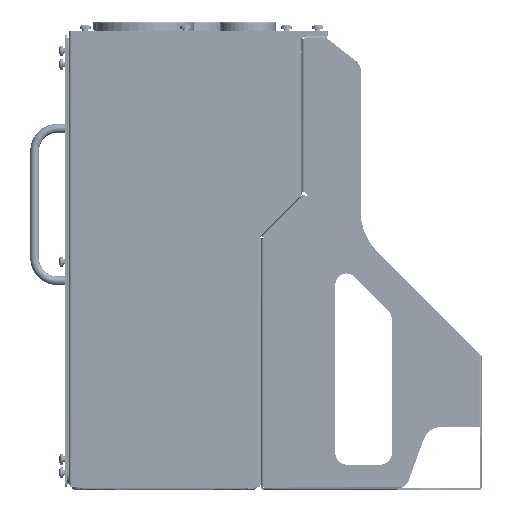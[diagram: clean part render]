
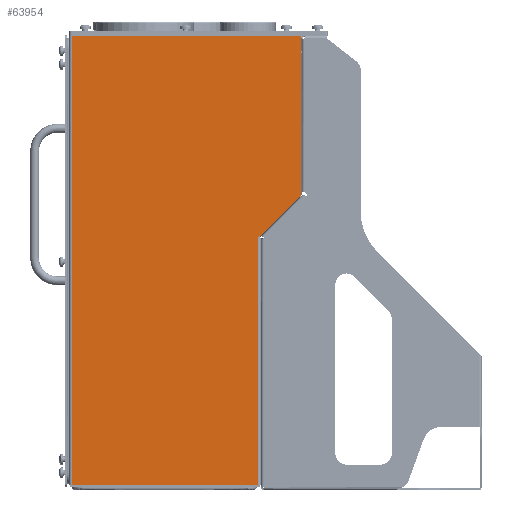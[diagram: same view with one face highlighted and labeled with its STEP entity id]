
A CAD part, left-side view. The second image highlights one B-rep face of the part: STEP entity #63954.
In plain terms, the highlighted planar face has unit normal (-1, 0, 0).
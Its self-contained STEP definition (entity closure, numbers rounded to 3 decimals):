
#3491 = VERTEX_POINT ( 'NONE', #169012 ) ;
#3555 = EDGE_CURVE ( 'NONE', #156582, #37085, #176389, .T. ) ;
#5108 = EDGE_CURVE ( 'NONE', #13128, #150295, #31814, .T. ) ;
#6841 = DIRECTION ( 'NONE',  ( -1., 0., 0. ) ) ;
#7852 = ORIENTED_EDGE ( 'NONE', *, *, #89794, .F. ) ;
#10539 = LINE ( 'NONE', #138308, #82850 ) ;
#12354 = DIRECTION ( 'NONE',  ( 0., 0., 1. ) ) ;
#13128 = VERTEX_POINT ( 'NONE', #181364 ) ;
#15090 = EDGE_CURVE ( 'NONE', #147971, #42302, #150430, .T. ) ;
#18780 = CARTESIAN_POINT ( 'NONE',  ( -222., -0.25, 682. ) ) ;
#22976 = AXIS2_PLACEMENT_3D ( 'NONE', #52151, #6841, #119790 ) ;
#25192 = DIRECTION ( 'NONE',  ( 0., 1., 0. ) ) ;
#25206 = ORIENTED_EDGE ( 'NONE', *, *, #119433, .F. ) ;
#25816 = EDGE_CURVE ( 'NONE', #76578, #100167, #133660, .T. ) ;
#27008 = CARTESIAN_POINT ( 'NONE',  ( -222., -36.5, 858. ) ) ;
#27017 = CARTESIAN_POINT ( 'NONE',  ( -222., -1., 682. ) ) ;
#30143 = CARTESIAN_POINT ( 'NONE',  ( -222., 166.25, 461. ) ) ;
#31266 = EDGE_CURVE ( 'NONE', #150295, #76578, #153905, .T. ) ;
#31814 = CIRCLE ( 'NONE', #22976, 1. ) ;
#32435 = ORIENTED_EDGE ( 'NONE', *, *, #91208, .T. ) ;
#35279 = LINE ( 'NONE', #91796, #46238 ) ;
#37085 = VERTEX_POINT ( 'NONE', #18780 ) ;
#38175 = VERTEX_POINT ( 'NONE', #30143 ) ;
#41906 = ORIENTED_EDGE ( 'NONE', *, *, #31266, .T. ) ;
#42302 = VERTEX_POINT ( 'NONE', #53889 ) ;
#44439 = ORIENTED_EDGE ( 'NONE', *, *, #141937, .T. ) ;
#46238 = VECTOR ( 'NONE', #148300, 1000. ) ;
#52151 = CARTESIAN_POINT ( 'NONE',  ( -222., -0.586, 683. ) ) ;
#53760 = CARTESIAN_POINT ( 'NONE',  ( -222., -36.621, 717.621 ) ) ;
#53779 = AXIS2_PLACEMENT_3D ( 'NONE', #27008, #139990, #25192 ) ;
#53889 = CARTESIAN_POINT ( 'NONE',  ( -222., 166.25, 859. ) ) ;
#55047 = DIRECTION ( 'NONE',  ( 1., 0., 0. ) ) ;
#55191 = EDGE_LOOP ( 'NONE', ( #110860, #158439, #41906, #77733, #82721, #86019, #110146, #25206, #7852, #32435, #44439, #118514 ) ) ;
#55565 = EDGE_CURVE ( 'NONE', #3491, #147971, #177956, .T. ) ;
#58170 = CARTESIAN_POINT ( 'NONE',  ( -222., -1.293, 682.293 ) ) ;
#63454 = CARTESIAN_POINT ( 'NONE',  ( -222., 0.75, 681. ) ) ;
#63954 = ADVANCED_FACE ( 'NONE', ( #82704 ), #84511, .T. ) ;
#67023 = DIRECTION ( 'NONE',  ( 0., 0., 1. ) ) ;
#67381 = CARTESIAN_POINT ( 'NONE',  ( -222., 0.75, 680. ) ) ;
#68390 = LINE ( 'NONE', #124889, #135460 ) ;
#69782 = VECTOR ( 'NONE', #134822, 1000. ) ;
#70602 = DIRECTION ( 'NONE',  ( -1., 0., 0. ) ) ;
#76578 = VERTEX_POINT ( 'NONE', #53760 ) ;
#77733 = ORIENTED_EDGE ( 'NONE', *, *, #25816, .T. ) ;
#82704 = FACE_OUTER_BOUND ( 'NONE', #55191, .T. ) ;
#82721 = ORIENTED_EDGE ( 'NONE', *, *, #146949, .T. ) ;
#82850 = VECTOR ( 'NONE', #67023, 1000. ) ;
#84511 = PLANE ( 'NONE',  #118094 ) ;
#84870 = LINE ( 'NONE', #67381, #151714 ) ;
#85712 = LINE ( 'NONE', #142209, #91072 ) ;
#86019 = ORIENTED_EDGE ( 'NONE', *, *, #55565, .T. ) ;
#88267 = EDGE_CURVE ( 'NONE', #13128, #37085, #85712, .T. ) ;
#89794 = EDGE_CURVE ( 'NONE', #165504, #38175, #35279, .T. ) ;
#90103 = CARTESIAN_POINT ( 'NONE',  ( -222., -34.5, 719.743 ) ) ;
#91072 = VECTOR ( 'NONE', #124702, 1000. ) ;
#91208 = EDGE_CURVE ( 'NONE', #165504, #111613, #68390, .T. ) ;
#91796 = CARTESIAN_POINT ( 'NONE',  ( -222., 0., 461. ) ) ;
#95208 = AXIS2_PLACEMENT_3D ( 'NONE', #90103, #145717, #131792 ) ;
#100118 = CARTESIAN_POINT ( 'NONE',  ( -222., 0.75, 461. ) ) ;
#100167 = VERTEX_POINT ( 'NONE', #167284 ) ;
#100260 = VECTOR ( 'NONE', #167087, 1000. ) ;
#108230 = VECTOR ( 'NONE', #182644, 1000. ) ;
#109626 = CARTESIAN_POINT ( 'NONE',  ( -222., 0., 859. ) ) ;
#110146 = ORIENTED_EDGE ( 'NONE', *, *, #15090, .T. ) ;
#110860 = ORIENTED_EDGE ( 'NONE', *, *, #88267, .F. ) ;
#111555 = DIRECTION ( 'NONE',  ( 0., 1., 0. ) ) ;
#111613 = VERTEX_POINT ( 'NONE', #118659 ) ;
#113374 = CARTESIAN_POINT ( 'NONE',  ( -222., -0.25, 681. ) ) ;
#118094 = AXIS2_PLACEMENT_3D ( 'NONE', #126211, #70602, #12354 ) ;
#118514 = ORIENTED_EDGE ( 'NONE', *, *, #3555, .T. ) ;
#118659 = CARTESIAN_POINT ( 'NONE',  ( -222., 0.75, 680. ) ) ;
#119433 = EDGE_CURVE ( 'NONE', #38175, #42302, #10539, .T. ) ;
#119790 = DIRECTION ( 'NONE',  ( 0., 1., 0. ) ) ;
#120140 = AXIS2_PLACEMENT_3D ( 'NONE', #113374, #55047, #111555 ) ;
#124702 = DIRECTION ( 'NONE',  ( 0., 1., 0. ) ) ;
#124889 = CARTESIAN_POINT ( 'NONE',  ( -222., 0.75, 1745. ) ) ;
#126211 = CARTESIAN_POINT ( 'NONE',  ( -222., 138.5, 531.5 ) ) ;
#131792 = DIRECTION ( 'NONE',  ( 0., 1., 0. ) ) ;
#133660 = CIRCLE ( 'NONE', #95208, 3. ) ;
#134822 = DIRECTION ( 'NONE',  ( 0., 0., 1. ) ) ;
#135460 = VECTOR ( 'NONE', #181411, 1000. ) ;
#135750 = CARTESIAN_POINT ( 'NONE',  ( -222., -37.5, 0. ) ) ;
#138308 = CARTESIAN_POINT ( 'NONE',  ( -222., 166.25, 461. ) ) ;
#139990 = DIRECTION ( 'NONE',  ( -1., 0., 0. ) ) ;
#141378 = DIRECTION ( 'NONE',  ( 0., 0., 1. ) ) ;
#141937 = EDGE_CURVE ( 'NONE', #111613, #156582, #84870, .T. ) ;
#142209 = CARTESIAN_POINT ( 'NONE',  ( -222., -216.006, 682. ) ) ;
#145717 = DIRECTION ( 'NONE',  ( -1., 0., 0. ) ) ;
#146949 = EDGE_CURVE ( 'NONE', #100167, #3491, #151499, .T. ) ;
#147971 = VERTEX_POINT ( 'NONE', #159019 ) ;
#148300 = DIRECTION ( 'NONE',  ( 0., 1., 0. ) ) ;
#150295 = VERTEX_POINT ( 'NONE', #58170 ) ;
#150430 = LINE ( 'NONE', #109626, #100260 ) ;
#151499 = LINE ( 'NONE', #135750, #69782 ) ;
#151714 = VECTOR ( 'NONE', #141378, 1000. ) ;
#153905 = LINE ( 'NONE', #27017, #108230 ) ;
#156582 = VERTEX_POINT ( 'NONE', #63454 ) ;
#158439 = ORIENTED_EDGE ( 'NONE', *, *, #5108, .T. ) ;
#159019 = CARTESIAN_POINT ( 'NONE',  ( -222., -36.5, 859. ) ) ;
#165504 = VERTEX_POINT ( 'NONE', #100118 ) ;
#167087 = DIRECTION ( 'NONE',  ( 0., 1., 0. ) ) ;
#167284 = CARTESIAN_POINT ( 'NONE',  ( -222., -37.5, 719.743 ) ) ;
#169012 = CARTESIAN_POINT ( 'NONE',  ( -222., -37.5, 858. ) ) ;
#176389 = CIRCLE ( 'NONE', #120140, 1. ) ;
#177956 = CIRCLE ( 'NONE', #53779, 1. ) ;
#181364 = CARTESIAN_POINT ( 'NONE',  ( -222., -0.586, 682. ) ) ;
#181411 = DIRECTION ( 'NONE',  ( 0., 0., 1. ) ) ;
#182644 = DIRECTION ( 'NONE',  ( 0., -0.707, 0.707 ) ) ;
